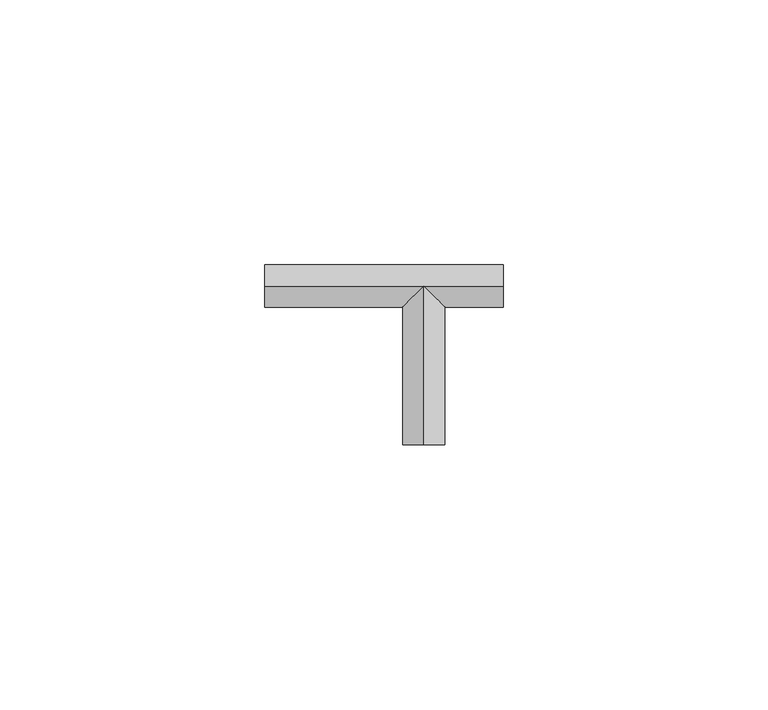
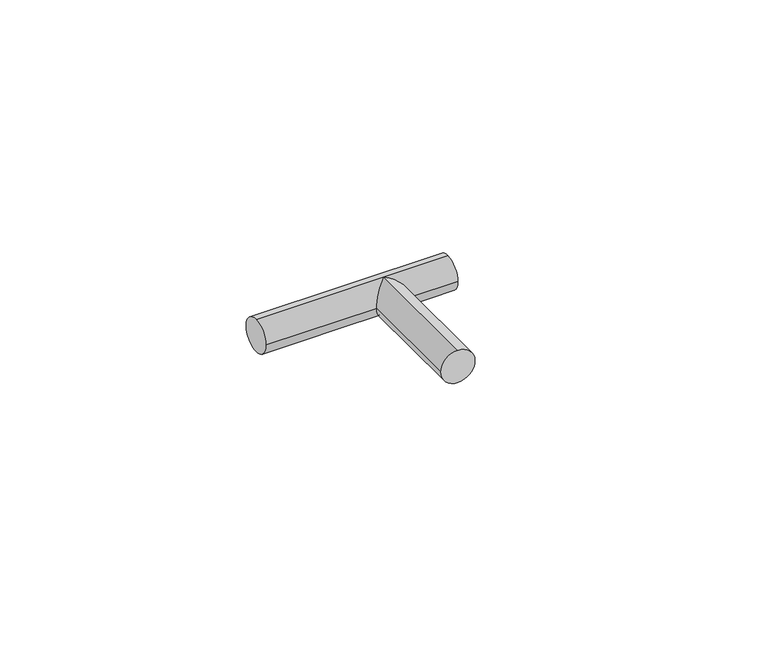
"""IFC4 building model written with IfcOpenShell, lengths in millimetres: duct fitting geometry, КНС_Тройник_Пруток_Неспецифицируемое_DKC : NG3103CU_Медь."""

from ifc_helpers import new_model, si_unit, frame, origin, place, context, project, spatial, circle_curve, ellipse_curve, source, transform, mapped, element, save
from ifc_brep_helpers import plane_surface, cylinder_surface, advanced_brep


def duct_fitting_2b8fa772(model_context):
    return source(origin(), model_context, "Body", "AdvancedBrep", [
        advanced_brep(
        [(0.0, -30.0, 4.0), (-4.0, -30.0, 0.0), (0.0, -30.0, -4.0), (4.0, -30.0, 0.0), (4.0, -4.0, 0.0), (0.0, 0.0, 4.0), (0.0, 0.0, -4.0), (-4.0, -4.0, 0.0), (-30.0, 0.0, 4.0), (-30.0, 4.0, 0.0), (-30.0, 0.0, -4.0), (-30.0, -4.0, 0.0), (15.0, 0.0, 4.0), (15.0, -4.0, 0.0), (15.0, 0.0, -4.0), (15.0, 4.0, 0.0)],
        [
            (0, 1, circle_curve(frame((0.0, -30.0, 0.0), z_axis=(0.0, -1.0, 0.0), x_axis=(1.0, 0.0, 0.0)), 4.0)),
            (1, 2, circle_curve(frame((0.0, -30.0, 0.0), z_axis=(0.0, -1.0, 0.0), x_axis=(1.0, 0.0, 0.0)), 4.0)),
            (2, 3, circle_curve(frame((0.0, -30.0, 0.0), z_axis=(0.0, -1.0, 0.0), x_axis=(1.0, 0.0, 0.0)), 4.0)),
            (3, 0, circle_curve(frame((0.0, -30.0, 0.0), z_axis=(0.0, -1.0, 0.0), x_axis=(1.0, 0.0, 0.0)), 4.0)),
            (3, 4),
            (4, 5, ellipse_curve(frame((0.0, 0.0, 0.0), z_axis=(-0.7071067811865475, -0.7071067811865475, 0.0), x_axis=(-0.7071067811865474, 0.7071067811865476, 0.0)), 5.6568542, 4.0)),
            (5, 0),
            (2, 6),
            (6, 4, ellipse_curve(frame((0.0, 0.0, 0.0), z_axis=(-0.7071067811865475, -0.7071067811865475, 0.0), x_axis=(-0.7071067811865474, 0.7071067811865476, 0.0)), 5.6568542, 4.0)),
            (1, 7),
            (7, 6, ellipse_curve(frame((0.0, 0.0, 0.0), z_axis=(0.7071067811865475, -0.7071067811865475, 0.0), x_axis=(0.7071067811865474, 0.7071067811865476, 0.0)), 5.6568542, 4.0)),
            (5, 7, ellipse_curve(frame((0.0, 0.0, 0.0), z_axis=(0.7071067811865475, -0.7071067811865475, 0.0), x_axis=(0.7071067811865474, 0.7071067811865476, 0.0)), 5.6568542, 4.0)),
            (8, 9, circle_curve(frame((-30.0, 0.0, 0.0), z_axis=(-1.0, 0.0, 0.0), x_axis=(0.0, 1.0, 0.0)), 4.0)),
            (9, 10, circle_curve(frame((-30.0, 0.0, 0.0), z_axis=(-1.0, 0.0, 0.0), x_axis=(0.0, 1.0, 0.0)), 4.0)),
            (10, 11, circle_curve(frame((-30.0, 0.0, 0.0), z_axis=(-1.0, 0.0, 0.0), x_axis=(0.0, 1.0, 0.0)), 4.0)),
            (11, 8, circle_curve(frame((-30.0, 0.0, 0.0), z_axis=(-1.0, 0.0, 0.0), x_axis=(0.0, 1.0, 0.0)), 4.0)),
            (12, 13, circle_curve(frame((15.0, 0.0, 0.0), z_axis=(1.0, 0.0, 0.0), x_axis=(0.0, 1.0, 0.0)), 4.0)),
            (13, 14, circle_curve(frame((15.0, 0.0, 0.0), z_axis=(1.0, 0.0, 0.0), x_axis=(0.0, 1.0, 0.0)), 4.0)),
            (14, 15, circle_curve(frame((15.0, 0.0, 0.0), z_axis=(1.0, 0.0, 0.0), x_axis=(0.0, 1.0, 0.0)), 4.0)),
            (15, 12, circle_curve(frame((15.0, 0.0, 0.0), z_axis=(1.0, 0.0, 0.0), x_axis=(0.0, 1.0, 0.0)), 4.0)),
            (8, 5),
            (5, 12),
            (15, 9),
            (14, 6),
            (6, 10),
            (7, 11),
            (13, 4),
        ],
        [
            plane_surface(frame((0.0, -30.0, 0.0), z_axis=(0.0, -1.0, 0.0), x_axis=(0.0, 0.0, 1.0))),
            cylinder_surface(frame((0.0, 0.0, 0.0), z_axis=(0.0, 1.0, 0.0), x_axis=(1.0, 0.0, 0.0)), 4.0),
            plane_surface(frame((-30.0, 0.0, 0.0), z_axis=(-1.0, 0.0, 0.0), x_axis=(0.0, 0.0, 1.0))),
            plane_surface(frame((15.0, 0.0, 0.0), z_axis=(1.0, 0.0, 0.0), x_axis=(0.0, 0.0, 1.0))),
            cylinder_surface(frame((-30.0, 0.0, 0.0), z_axis=(-1.0, 0.0, 0.0), x_axis=(0.0, 1.0, 0.0)), 4.0),
        ],
        [
            (0, [[1, 2, 3, 4]]),
            (1, [[-4, 5, 6, 7]]),
            (1, [[-3, 8, 9, -5]]),
            (1, [[-2, 10, 11, -8]]),
            (1, [[-1, -7, 12, -10]]),
            (2, [[13, 14, 15, 16]]),
            (3, [[17, 18, 19, 20]]),
            (4, [[-13, 21, 22, -20, 23]]),
            (4, [[-14, -23, -19, 24, 25]]),
            (4, [[-15, -25, -11, 26]]),
            (4, [[-18, 27, -9, -24]]),
            (4, [[-16, -26, -12, -21]]),
            (4, [[-17, -22, -6, -27]]),
        ],
    ),
    ])


if __name__ == "__main__":
    model = new_model("IFC4")
    model_context = context("Model", 3, world=origin())
    ifc_project = project(units=[si_unit("LENGTHUNIT", "METRE", prefix="MILLI")], contexts=[model_context])
    site = spatial("IfcSite", under=ifc_project)
    building = spatial("IfcBuilding", under=site)
    placement = place(None, origin())
    duct_fitting_shape = duct_fitting_2b8fa772(model_context)
    element("IfcDuctFitting", 1, ObjectType="КНС_Тройник_Пруток_Неспецифицируемое_DKC : NG3103CU_Медь", at=placement, inside=building, context=model_context, shape_type="MappedRepresentation", body=[
        mapped(duct_fitting_shape, transform((0.0, 0.0, 0.0), x_axis=(1.0, 0.0, 0.0), y_axis=(0.0, 1.0, 0.0), z_axis=(0.0, 0.0, 1.0))),
    ])
    save(model, "model.ifc")
